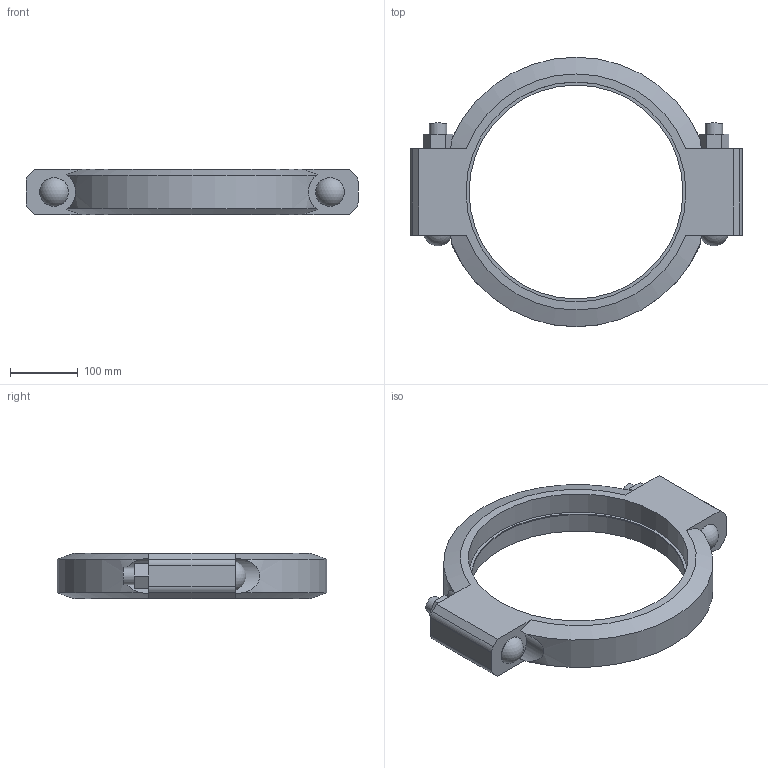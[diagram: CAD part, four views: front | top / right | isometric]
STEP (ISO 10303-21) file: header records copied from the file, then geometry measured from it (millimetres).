
FILE_DESCRIPTION(/* description */ ('Victaulic Standard Flexible Coupling Style 77','CAx-IF Rec.Pracs.---Representation and Presentation of Product Manufacturing Information (PMI)---4.0---2014-10-13'),/* implementation_level */ '2;1');
FILE_NAME(/* name */ 'C:\Users\Vjadhav\Desktop\CAD for Inventor\1\Coupling bolt thickness\77\Victaulic_IPS_Coupling Flexible_Style 77 (OGS)\Victaulic_IPS_Coupling Flexible_Style 77 (OGS)_12 (300).stp',/* time_stamp */ '2022-03-24T18:20:43+06:00',/* author */ ('CONSTRUCTION PIPING SERVICES'),/* organization */ ('Victaulic'),/* preprocessor_version */ 'ST-DEVELOPER v17.2',/* originating_system */ 'Autodesk Inventor 2019',/* authorisation */ '');
FILE_SCHEMA (('AP242_MANAGED_MODEL_BASED_3D_ENGINEERING_MIM_LF { 1 0 10303 442 1 1 4 }'));
Length unit declared in the file: inch
Products named in the file (1): 077-12.0
Bounding box: 488.95 x 397 x 66.8 mm (x, y, z)
Volume: 3399818.8 mm3; surface area: 319545.1 mm2
Topology: 1 solids, 3 shells, 61 faces, 142 edges, 95 vertices
Faces by surface type: plane 34, cylinder 21, cone 4, sphere 2
Full cylindrical faces by diameter (mm): 25.4 x4, 27.432 x2, 42.342 x2, 314.96 x1, 323.85 x2
Entity records: 2083 total; most frequent: CARTESIAN_POINT 472, DIRECTION 315, ORIENTED_EDGE 284, EDGE_CURVE 142, AXIS2_PLACEMENT_3D 118, VERTEX_POINT 95, LINE 79, VECTOR 79
